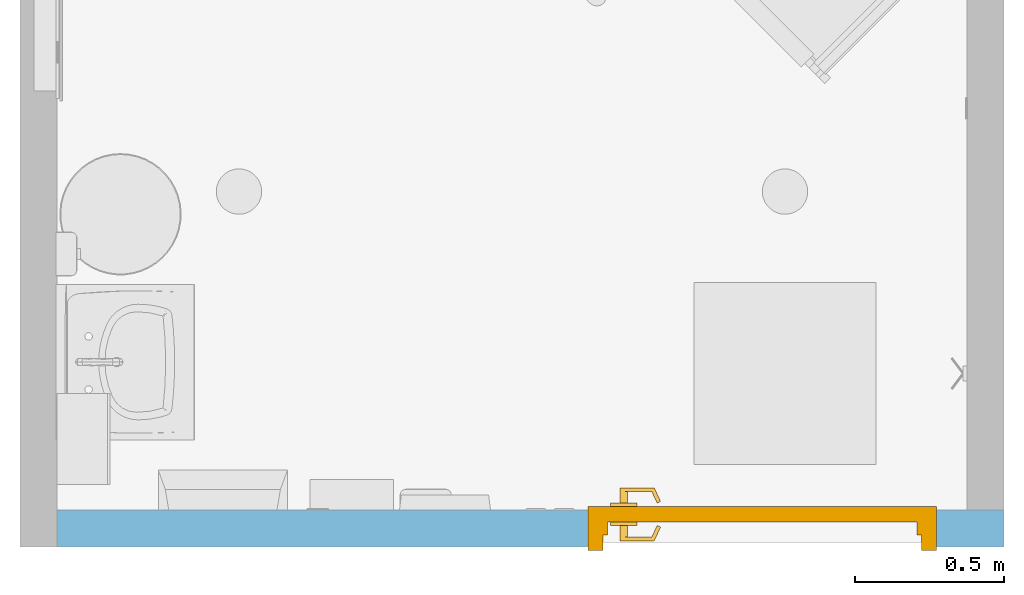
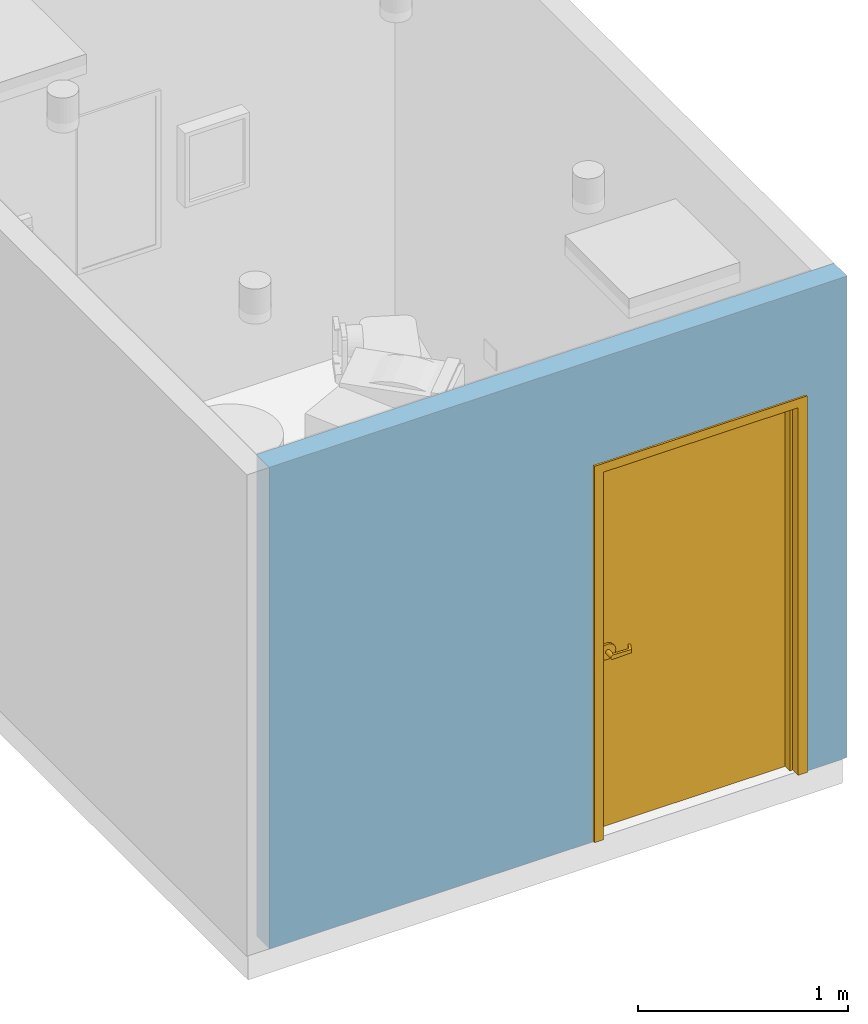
# One storey, part 2 of 12: 1 door, 1 opening, plus 1 element that does not belong to this part.
"""IFC2X3 building model written with IfcOpenShell, lengths in feet."""

from ifc_helpers import new_model, entity, si_unit, converted_unit, derived_unit, direction, frame, frame_2d, origin, place, context, subcontext, project, spatial, rectangle, extrude, faceted_brep, source, transform, mapped, material, material_list, layer, layer_set, layer_usage, type_object, type_shapes, element, fill, save


model = new_model("IFC2X3")

# Units and contexts
model_context = context("Model", 3, precision=0.0001, world=origin(), true_north=direction((6.12303176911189e-17, 1.0)))
body_context = subcontext(model_context, "Body", "Model", "MODEL_VIEW")
ifc_project = project(units=[converted_unit("LENGTHUNIT", "FOOT", entity("IfcRatioMeasure", 0.3048), si_unit("LENGTHUNIT", "METRE"), dimensions=[1, 0, 0, 0, 0, 0, 0]), converted_unit("AREAUNIT", "SQUARE FOOT", entity("IfcRatioMeasure", 0.09290304), si_unit("AREAUNIT", "SQUARE_METRE"), dimensions=[2, 0, 0, 0, 0, 0, 0]), converted_unit("VOLUMEUNIT", "CUBIC FOOT", entity("IfcRatioMeasure", 0.028316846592), si_unit("VOLUMEUNIT", "CUBIC_METRE"), dimensions=[3, 0, 0, 0, 0, 0, 0]), converted_unit("PLANEANGLEUNIT", "DEGREE", entity("IfcRatioMeasure", 0.0174532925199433), si_unit("PLANEANGLEUNIT", "RADIAN"), dimensions=[0, 0, 0, 0, 0, 0, 0]), si_unit("MASSUNIT", "GRAM", prefix="KILO"), derived_unit("MASSDENSITYUNIT", [(si_unit("MASSUNIT", "GRAM", prefix="KILO"), 1), (si_unit("LENGTHUNIT", "METRE"), -3)]), si_unit("TIMEUNIT", "SECOND"), si_unit("FREQUENCYUNIT", "HERTZ"), si_unit("THERMODYNAMICTEMPERATUREUNIT", "DEGREE_CELSIUS"), derived_unit("THERMALTRANSMITTANCEUNIT", [(si_unit("MASSUNIT", "GRAM", prefix="KILO"), 1), (si_unit("THERMODYNAMICTEMPERATUREUNIT", "KELVIN"), -1), (si_unit("TIMEUNIT", "SECOND"), -3)]), derived_unit("VOLUMETRICFLOWRATEUNIT", [(si_unit("LENGTHUNIT", "METRE"), 3), (si_unit("TIMEUNIT", "SECOND"), -1)]), si_unit("ELECTRICCURRENTUNIT", "AMPERE"), si_unit("ELECTRICVOLTAGEUNIT", "VOLT"), si_unit("POWERUNIT", "WATT"), si_unit("FORCEUNIT", "NEWTON"), si_unit("ILLUMINANCEUNIT", "LUX"), si_unit("LUMINOUSFLUXUNIT", "LUMEN"), si_unit("LUMINOUSINTENSITYUNIT", "CANDELA"), derived_unit("USERDEFINED", [(si_unit("MASSUNIT", "GRAM", prefix="KILO"), -1), (si_unit("LENGTHUNIT", "METRE"), -2), (si_unit("TIMEUNIT", "SECOND"), 3), (si_unit("LUMINOUSFLUXUNIT", "LUMEN"), 1)]), derived_unit("LINEARVELOCITYUNIT", [(si_unit("LENGTHUNIT", "METRE"), 1), (si_unit("TIMEUNIT", "SECOND"), -1)]), si_unit("PRESSUREUNIT", "PASCAL"), derived_unit("USERDEFINED", [(si_unit("LENGTHUNIT", "METRE"), -2), (si_unit("MASSUNIT", "GRAM", prefix="KILO"), 1), (si_unit("TIMEUNIT", "SECOND"), -2)])], contexts=[model_context])

# Site, building, storey
site_placement = place(None, origin())
site = spatial("IfcSite", under=ifc_project, at=site_placement, Name="Default", CompositionType="ELEMENT")
building_placement = place(site_placement, origin())
building = spatial("IfcBuilding", under=site, at=building_placement, Name="EYE CLINIC:  OPTHALMOLOGY AND OPTOMETRY SERVICES (Ch. 233)", CompositionType="ELEMENT")
storey_placement = place(building_placement, origin())
storey = spatial("IfcBuildingStorey", under=building, at=storey_placement, Name="DATUM", CompositionType="ELEMENT", Elevation=0.0)

# Wall, opening, door
ifc_material_1 = material(Name="Default Wall")
ifc_layer = layer(ifc_material_1, 0.40625)
ifc_layer_set = layer_set([ifc_layer], Name="Basic Wall:Interior - 4 7/8\"")
ifc_layer_usage = layer_usage(ifc_layer_set, "AXIS2", "NEGATIVE", 0.203125)
wall_type = type_object("IfcWallType", Name="Basic Wall:Interior - 4 7/8\"", PredefinedType="STANDARD", material=ifc_layer_set)
wall_placement = place(storey_placement, frame((164.046019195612, 21.6045006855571, 0.0), z_axis=(0.0, 0.0, 1.0), x_axis=(-1.0, 0.0, 0.0)))
wall = element("IfcWallStandardCase", 1, at=wall_placement, inside=storey, type_object=wall_type, material=ifc_layer_usage, Name="Basic Wall:Interior - 4 7/8\"", ObjectType="Basic Wall:Interior - 4 7/8\"", context=body_context, shape_type="SweptSolid", body=[
    extrude(rectangle(XDim=10.40625, YDim=0.40625, at=frame_2d((5.203125, 1.12410081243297e-15), x_axis=(-1.0, 0.0))), origin(), (0.0, 0.0, 1.0), 9.16666666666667),
])
opening_placement = place(wall_placement, frame((4.57291666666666, 0.203124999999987, 0.0)))
opening = element("IfcOpeningElement", 2, at=opening_placement, cuts=wall, Name="Single - Flush:42\" x 84\":1", ObjectType="Opening", context=body_context, shape_type="SweptSolid", body=[
    extrude(rectangle(XDim=3.83333333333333, YDim=7.16666666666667, at=frame_2d((3.58333333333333, 1.91666666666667), x_axis=(0.0, 1.0))), frame((0.0, 0.0, 0.0), z_axis=(0.0, -1.0, 0.0), x_axis=(0.0, 0.0, 1.0)), (0.0, 0.0, 1.0), 0.40625),
])
ifc_material_2 = material(Name="Door - Hardware")
ifc_material_3 = material(Name="Door - Wood Panel")
ifc_material_4 = material(Name="Door - H.M. Frame")
ifc_material_list_1 = material_list([ifc_material_2, ifc_material_3, ifc_material_4])
ifc_material_list_2 = material_list([ifc_material_2, ifc_material_3, ifc_material_4])
door_style = type_object("IfcDoorStyle", Name="42\" x 84\"", ConstructionType="NOTDEFINED", OperationType="NOTDEFINED", ParameterTakesPrecedence=False, Sizeable=False, material=ifc_material_list_2)
shared_shape = source(origin(), body_context, "Body", "Brep", [
    faceted_brep([(0.761840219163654, 0.236368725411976, 3.3541666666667), (0.761840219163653, 0.236368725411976, 3.31250000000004), (0.709012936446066, 0.123080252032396, 3.30208333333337), (0.702622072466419, 0.109375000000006, 3.30208333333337), (0.702622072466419, 0.109375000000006, 3.36458333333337), (0.709012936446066, 0.123080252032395, 3.36458333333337), (0.799603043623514, 0.218759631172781, 3.3541666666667), (0.746775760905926, 0.1054711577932, 3.36458333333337), (0.729166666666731, 0.0677083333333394, 3.36458333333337), (0.72916666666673, 0.0677083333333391, 3.30208333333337), (0.746775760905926, 0.1054711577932, 3.30208333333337), (0.799603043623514, 0.218759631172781, 3.31250000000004), (0.72916666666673, 0.109375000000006, 3.30208333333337), (0.729166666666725, 0.109375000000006, 3.36458333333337), (0.397137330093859, 0.0677083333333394, 3.29168707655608), (0.397137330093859, 0.0677083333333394, 3.37497959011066), (0.38693671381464, 0.0677083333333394, 3.37403912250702), (0.377273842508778, 0.0677083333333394, 3.37063824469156), (0.368732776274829, 0.0677083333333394, 3.36498251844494), (0.361829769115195, 0.0677083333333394, 3.35741379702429), (0.356982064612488, 0.0677083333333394, 3.34838956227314), (0.354482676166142, 0.0677083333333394, 3.33845527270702), (0.354482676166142, 0.0677083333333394, 3.32821139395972), (0.356982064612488, 0.0677083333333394, 3.31827710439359), (0.361829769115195, 0.0677083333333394, 3.30925286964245), (0.368732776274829, 0.0677083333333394, 3.3016841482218), (0.377273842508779, 0.0677083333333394, 3.29602842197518), (0.38693671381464, 0.0677083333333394, 3.29262754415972), (0.397137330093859, 0.109375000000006, 3.29168707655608), (0.407663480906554, 0.109375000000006, 3.29338137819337), (0.417415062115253, 0.109375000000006, 3.29769150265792), (0.425753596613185, 0.109375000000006, 3.30433524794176), (0.432133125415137, 0.109375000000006, 3.31287762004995), (0.436135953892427, 0.109375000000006, 3.32275931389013), (0.437500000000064, 0.109375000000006, 3.33333333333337), (0.436135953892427, 0.109375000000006, 3.34390735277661), (0.432133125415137, 0.109375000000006, 3.35378904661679), (0.425753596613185, 0.109375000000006, 3.36233141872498), (0.417415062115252, 0.109375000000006, 3.36897516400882), (0.407663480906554, 0.109375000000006, 3.37328528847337), (0.397137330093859, 0.109375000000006, 3.37497959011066), (0.387651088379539, 0.109375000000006, 3.29247795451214), (0.378594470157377, 0.109375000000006, 3.2954000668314), (0.363605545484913, 0.109375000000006, 3.30692347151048), (0.370437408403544, 0.109375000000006, 3.30030065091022), (0.358454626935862, 0.109375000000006, 3.31492291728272), (0.355252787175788, 0.109375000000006, 3.32388185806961), (0.35416666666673, 0.109375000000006, 3.33333333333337), (0.355252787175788, 0.109375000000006, 3.34278480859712), (0.358454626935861, 0.109375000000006, 3.35174374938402), (0.370437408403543, 0.109375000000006, 3.36636601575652), (0.363605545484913, 0.109375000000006, 3.35974319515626), (0.378594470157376, 0.109375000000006, 3.37126659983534), (0.387651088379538, 0.109375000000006, 3.3741887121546), (0.35416666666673, 0.234375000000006, 3.33333333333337), (0.355586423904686, 0.234375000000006, 3.34411746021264), (0.359748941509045, 0.234375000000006, 3.3541666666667), (0.375000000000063, 0.234375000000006, 3.36941772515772), (0.366370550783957, 0.234375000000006, 3.36279611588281), (0.385049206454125, 0.234375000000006, 3.37358024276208), (0.395833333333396, 0.234375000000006, 3.37500000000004), (0.406617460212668, 0.234375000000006, 3.37358024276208), (0.41666666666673, 0.234375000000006, 3.36941772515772), (0.431917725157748, 0.234375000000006, 3.3541666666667), (0.425296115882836, 0.234375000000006, 3.36279611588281), (0.436080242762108, 0.234375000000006, 3.34411746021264), (0.437500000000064, 0.234375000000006, 3.33333333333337), (0.436080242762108, 0.234375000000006, 3.3225492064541), (0.431917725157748, 0.234375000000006, 3.31250000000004), (0.41666666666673, 0.234375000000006, 3.29724894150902), (0.425296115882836, 0.234375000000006, 3.30387055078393), (0.406617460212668, 0.234375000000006, 3.29308642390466), (0.395833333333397, 0.234375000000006, 3.2916666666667), (0.385049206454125, 0.234375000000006, 3.29308642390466), (0.375000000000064, 0.234375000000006, 3.29724894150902), (0.359748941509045, 0.234375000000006, 3.31250000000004), (0.366370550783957, 0.234375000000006, 3.30387055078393), (0.355586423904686, 0.234375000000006, 3.3225492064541), (0.468750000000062, 0.234375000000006, 3.4596287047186), (0.498953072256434, 0.234375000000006, 3.43645307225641), (0.433577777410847, 0.234375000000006, 3.47419751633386), (0.395833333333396, 0.234375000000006, 3.4791666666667), (0.358088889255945, 0.234375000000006, 3.47419751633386), (0.322916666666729, 0.234375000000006, 3.4596287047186), (0.292713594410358, 0.234375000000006, 3.43645307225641), (0.269537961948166, 0.234375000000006, 3.40625000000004), (0.254969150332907, 0.234375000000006, 3.37107777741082), (0.250000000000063, 0.234375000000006, 3.33333333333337), (0.254969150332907, 0.234375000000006, 3.29558888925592), (0.269537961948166, 0.234375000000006, 3.2604166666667), (0.292713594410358, 0.234375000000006, 3.23021359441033), (0.32291666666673, 0.234375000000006, 3.20703796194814), (0.358088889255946, 0.234375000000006, 3.19246915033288), (0.395833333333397, 0.234375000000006, 3.18750000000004), (0.433577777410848, 0.234375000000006, 3.19246915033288), (0.468750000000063, 0.234375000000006, 3.20703796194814), (0.498953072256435, 0.234375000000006, 3.23021359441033), (0.522128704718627, 0.234375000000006, 3.2604166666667), (0.536697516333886, 0.234375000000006, 3.29558888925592), (0.54166666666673, 0.234375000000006, 3.33333333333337), (0.536697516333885, 0.234375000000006, 3.37107777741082), (0.522128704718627, 0.234375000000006, 3.40625000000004), (0.433577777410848, 0.276041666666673, 3.19246915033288), (0.395833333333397, 0.276041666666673, 3.18750000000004), (0.358088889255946, 0.276041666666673, 3.19246915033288), (0.32291666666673, 0.276041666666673, 3.20703796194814), (0.292713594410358, 0.276041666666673, 3.23021359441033), (0.269537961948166, 0.276041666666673, 3.2604166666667), (0.254969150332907, 0.276041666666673, 3.29558888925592), (0.250000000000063, 0.276041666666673, 3.33333333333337), (0.254969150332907, 0.276041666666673, 3.37107777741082), (0.269537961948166, 0.276041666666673, 3.40625000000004), (0.292713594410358, 0.276041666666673, 3.43645307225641), (0.322916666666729, 0.276041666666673, 3.4596287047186), (0.358088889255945, 0.276041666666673, 3.47419751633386), (0.395833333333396, 0.276041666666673, 3.4791666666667), (0.433577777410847, 0.276041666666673, 3.47419751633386), (0.468750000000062, 0.276041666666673, 3.4596287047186), (0.498953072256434, 0.276041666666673, 3.43645307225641), (0.522128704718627, 0.276041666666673, 3.40625000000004), (0.536697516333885, 0.276041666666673, 3.37107777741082), (0.54166666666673, 0.276041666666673, 3.33333333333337), (0.536697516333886, 0.276041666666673, 3.29558888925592), (0.522128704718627, 0.276041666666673, 3.2604166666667), (0.498953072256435, 0.276041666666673, 3.23021359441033), (0.468750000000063, 0.276041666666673, 3.20703796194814)], [[[0, 1, 2, 3, 4, 5]], [[6, 7, 8, 9, 10, 11]], [[12, 3, 2, 10, 9]], [[11, 10, 2, 1]], [[11, 1, 0, 6]], [[7, 6, 0, 5]], [[13, 8, 7, 5, 4]], [[14, 9, 8, 15, 16, 17, 18, 19, 20, 21, 22, 23, 24, 25, 26, 27]], [[3, 12, 28, 29, 30, 31, 32, 33, 34, 35, 36, 37, 38, 39, 40, 13, 4]], [[28, 12, 9, 14]], [[28, 14, 41]], [[41, 27, 42]], [[43, 44, 25]], [[24, 45, 43]], [[26, 44, 42]], [[45, 23, 46]], [[27, 26, 42]], [[41, 14, 27]], [[45, 24, 23]], [[24, 43, 25]], [[44, 26, 25]], [[46, 23, 22]], [[22, 47, 46]], [[47, 21, 48]], [[48, 20, 49]], [[50, 51, 18]], [[17, 52, 50]], [[19, 51, 49]], [[52, 16, 53]], [[51, 19, 18]], [[49, 20, 19]], [[48, 21, 20]], [[53, 16, 15]], [[16, 52, 17]], [[50, 18, 17]], [[40, 53, 15]], [[22, 21, 47]], [[40, 15, 8, 13]], [[54, 48, 55]], [[55, 49, 56]], [[57, 58, 50]], [[51, 58, 56]], [[59, 57, 52]], [[48, 49, 55]], [[54, 47, 48]], [[57, 50, 52]], [[50, 58, 51]], [[56, 49, 51]], [[59, 52, 53]], [[53, 60, 59]], [[60, 40, 61]], [[61, 39, 62]], [[63, 64, 37]], [[36, 65, 63]], [[38, 64, 62]], [[65, 35, 66]], [[39, 38, 62]], [[61, 40, 39]], [[65, 36, 35]], [[36, 63, 37]], [[64, 38, 37]], [[66, 35, 34]], [[53, 40, 60]], [[66, 33, 67]], [[67, 32, 68]], [[69, 70, 30]], [[31, 70, 68]], [[71, 69, 29]], [[33, 32, 67]], [[66, 34, 33]], [[69, 30, 29]], [[30, 70, 31]], [[68, 32, 31]], [[71, 29, 28]], [[28, 72, 71]], [[72, 41, 73]], [[73, 42, 74]], [[75, 76, 43]], [[45, 77, 75]], [[44, 76, 74]], [[77, 46, 54]], [[42, 44, 74]], [[73, 41, 42]], [[77, 45, 46]], [[45, 75, 43]], [[76, 44, 43]], [[54, 46, 47]], [[28, 41, 72]], [[78, 61, 62]], [[78, 62, 79]], [[78, 80, 61]], [[60, 61, 80]], [[81, 60, 80]], [[60, 81, 59]], [[82, 59, 81]], [[82, 57, 59]], [[57, 82, 83]], [[57, 83, 58]], [[84, 58, 83]], [[58, 84, 56]], [[56, 84, 85]], [[56, 85, 55]], [[55, 85, 86]], [[54, 55, 86]], [[87, 54, 86]], [[77, 54, 87]], [[88, 77, 87]], [[75, 77, 88]], [[89, 75, 88]], [[75, 89, 90]], [[76, 75, 90]], [[90, 91, 76]], [[91, 74, 76]], [[74, 91, 92]], [[74, 92, 73]], [[92, 93, 73]], [[72, 73, 93]], [[93, 94, 72]], [[72, 94, 71]], [[95, 71, 94]], [[71, 95, 69]], [[69, 95, 96]], [[70, 69, 96]], [[97, 70, 96]], [[68, 70, 97]], [[98, 68, 97]], [[68, 98, 67]], [[67, 98, 99]], [[99, 66, 67]], [[99, 100, 66]], [[65, 66, 100]], [[101, 65, 100]], [[64, 101, 79]], [[101, 63, 65]], [[63, 101, 64]], [[64, 79, 62]], [[102, 103, 104, 105, 106, 107, 108, 109, 110, 111, 112, 113, 114, 115, 116, 117, 118, 119, 120, 121, 122, 123, 124, 125]], [[109, 87, 86, 110]], [[110, 86, 85, 111]], [[113, 112, 84, 83]], [[84, 112, 111, 85]], [[114, 113, 83, 82]], [[114, 82, 81, 115]], [[115, 81, 80, 116]], [[116, 80, 78, 117]], [[119, 118, 79, 101]], [[79, 118, 117, 78]], [[120, 119, 101, 100]], [[120, 100, 99, 121]], [[121, 99, 98, 122]], [[122, 98, 97, 123]], [[125, 124, 96, 95]], [[96, 124, 123, 97]], [[102, 125, 95, 94]], [[102, 94, 93, 103]], [[103, 93, 92, 104]], [[104, 92, 91, 105]], [[107, 106, 90, 89]], [[90, 106, 105, 91]], [[108, 107, 89, 88]], [[108, 88, 87, 109]]]),
    faceted_brep([(0.761840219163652, 0.482381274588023, 3.31249999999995), (0.761840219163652, 0.482381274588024, 3.35416666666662), (0.709012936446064, 0.595669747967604, 3.36458333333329), (0.702622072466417, 0.609374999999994, 3.36458333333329), (0.702622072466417, 0.609374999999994, 3.30208333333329), (0.709012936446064, 0.595669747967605, 3.30208333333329), (0.799603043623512, 0.499990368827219, 3.31249999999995), (0.746775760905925, 0.6132788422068, 3.30208333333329), (0.729166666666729, 0.651041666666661, 3.30208333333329), (0.729166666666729, 0.651041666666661, 3.36458333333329), (0.746775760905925, 0.6132788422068, 3.36458333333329), (0.799603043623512, 0.499990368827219, 3.35416666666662), (0.729166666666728, 0.609374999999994, 3.36458333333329), (0.729166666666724, 0.609374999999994, 3.30208333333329), (0.397137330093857, 0.651041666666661, 3.37497959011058), (0.397137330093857, 0.651041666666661, 3.291687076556), (0.386936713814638, 0.651041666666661, 3.29262754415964), (0.377273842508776, 0.651041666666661, 3.2960284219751), (0.368732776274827, 0.651041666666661, 3.30168414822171), (0.361829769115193, 0.651041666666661, 3.30925286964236), (0.356982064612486, 0.651041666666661, 3.31827710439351), (0.35448267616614, 0.651041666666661, 3.32821139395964), (0.35448267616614, 0.651041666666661, 3.33845527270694), (0.356982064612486, 0.651041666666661, 3.34838956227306), (0.361829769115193, 0.651041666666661, 3.35741379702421), (0.368732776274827, 0.651041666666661, 3.36498251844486), (0.377273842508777, 0.651041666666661, 3.37063824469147), (0.386936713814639, 0.651041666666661, 3.37403912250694), (0.397137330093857, 0.609374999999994, 3.37497959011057), (0.407663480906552, 0.609374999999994, 3.37328528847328), (0.417415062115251, 0.609374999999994, 3.36897516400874), (0.425753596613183, 0.609374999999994, 3.3623314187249), (0.432133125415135, 0.609374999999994, 3.35378904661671), (0.436135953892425, 0.609374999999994, 3.34390735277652), (0.437500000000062, 0.609374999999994, 3.33333333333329), (0.436135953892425, 0.609374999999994, 3.32275931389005), (0.432133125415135, 0.609374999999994, 3.31287762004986), (0.425753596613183, 0.609374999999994, 3.30433524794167), (0.417415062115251, 0.609374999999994, 3.29769150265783), (0.407663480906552, 0.609374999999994, 3.29338137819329), (0.397137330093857, 0.609374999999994, 3.291687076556), (0.387651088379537, 0.609374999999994, 3.37418871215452), (0.378594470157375, 0.609374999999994, 3.37126659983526), (0.363605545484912, 0.609374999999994, 3.35974319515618), (0.370437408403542, 0.609374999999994, 3.36636601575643), (0.35845462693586, 0.609374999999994, 3.35174374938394), (0.355252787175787, 0.609374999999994, 3.34278480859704), (0.354166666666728, 0.609374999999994, 3.33333333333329), (0.355252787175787, 0.609374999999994, 3.32388185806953), (0.35845462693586, 0.609374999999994, 3.31492291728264), (0.370437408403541, 0.609374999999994, 3.30030065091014), (0.363605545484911, 0.609374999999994, 3.30692347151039), (0.378594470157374, 0.609374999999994, 3.29540006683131), (0.387651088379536, 0.609374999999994, 3.29247795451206), (0.354166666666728, 0.484374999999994, 3.33333333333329), (0.355586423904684, 0.484374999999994, 3.32254920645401), (0.359748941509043, 0.484374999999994, 3.31249999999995), (0.375000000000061, 0.484374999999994, 3.29724894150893), (0.366370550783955, 0.484374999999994, 3.30387055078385), (0.385049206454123, 0.484374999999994, 3.29308642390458), (0.395833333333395, 0.484374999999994, 3.29166666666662), (0.406617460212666, 0.484374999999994, 3.29308642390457), (0.416666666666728, 0.484374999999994, 3.29724894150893), (0.431917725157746, 0.484374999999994, 3.31249999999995), (0.425296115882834, 0.484374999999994, 3.30387055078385), (0.436080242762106, 0.484374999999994, 3.32254920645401), (0.437500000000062, 0.484374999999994, 3.33333333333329), (0.436080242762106, 0.484374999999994, 3.34411746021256), (0.431917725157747, 0.484374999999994, 3.35416666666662), (0.416666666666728, 0.484374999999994, 3.36941772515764), (0.425296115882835, 0.484374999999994, 3.36279611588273), (0.406617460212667, 0.484374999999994, 3.373580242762), (0.395833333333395, 0.484374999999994, 3.37499999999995), (0.385049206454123, 0.484374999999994, 3.373580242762), (0.375000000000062, 0.484374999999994, 3.36941772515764), (0.359748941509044, 0.484374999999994, 3.35416666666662), (0.366370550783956, 0.484374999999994, 3.36279611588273), (0.355586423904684, 0.484374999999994, 3.34411746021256), (0.468750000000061, 0.484374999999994, 3.20703796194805), (0.498953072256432, 0.484374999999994, 3.23021359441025), (0.433577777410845, 0.484374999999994, 3.1924691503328), (0.395833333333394, 0.484374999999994, 3.18749999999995), (0.358088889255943, 0.484374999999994, 3.1924691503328), (0.322916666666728, 0.484374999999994, 3.20703796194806), (0.292713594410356, 0.484374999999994, 3.23021359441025), (0.269537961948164, 0.484374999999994, 3.26041666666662), (0.254969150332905, 0.484374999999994, 3.29558888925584), (0.250000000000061, 0.484374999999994, 3.33333333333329), (0.254969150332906, 0.484374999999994, 3.37107777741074), (0.269537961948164, 0.484374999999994, 3.40624999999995), (0.292713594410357, 0.484374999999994, 3.43645307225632), (0.322916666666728, 0.484374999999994, 3.45962870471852), (0.358088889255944, 0.484374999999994, 3.47419751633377), (0.395833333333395, 0.484374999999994, 3.47916666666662), (0.433577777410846, 0.484374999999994, 3.47419751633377), (0.468750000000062, 0.484374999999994, 3.45962870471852), (0.498953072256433, 0.484374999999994, 3.43645307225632), (0.522128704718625, 0.484374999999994, 3.40624999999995), (0.536697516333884, 0.484374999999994, 3.37107777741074), (0.541666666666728, 0.484374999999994, 3.33333333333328), (0.536697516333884, 0.484374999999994, 3.29558888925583), (0.522128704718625, 0.484374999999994, 3.26041666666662), (0.433577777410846, 0.442708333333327, 3.47419751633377), (0.395833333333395, 0.442708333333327, 3.47916666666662), (0.358088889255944, 0.442708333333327, 3.47419751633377), (0.322916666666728, 0.442708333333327, 3.45962870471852), (0.292713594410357, 0.442708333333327, 3.43645307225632), (0.269537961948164, 0.442708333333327, 3.40624999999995), (0.254969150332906, 0.442708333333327, 3.37107777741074), (0.250000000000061, 0.442708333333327, 3.33333333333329), (0.254969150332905, 0.442708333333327, 3.29558888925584), (0.269537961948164, 0.442708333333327, 3.26041666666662), (0.292713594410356, 0.442708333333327, 3.23021359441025), (0.322916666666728, 0.442708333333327, 3.20703796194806), (0.358088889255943, 0.442708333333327, 3.1924691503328), (0.395833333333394, 0.442708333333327, 3.18749999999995), (0.433577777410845, 0.442708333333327, 3.1924691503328), (0.468750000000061, 0.442708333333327, 3.20703796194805), (0.498953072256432, 0.442708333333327, 3.23021359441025), (0.522128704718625, 0.442708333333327, 3.26041666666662), (0.536697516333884, 0.442708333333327, 3.29558888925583), (0.541666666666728, 0.442708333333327, 3.33333333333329), (0.536697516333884, 0.442708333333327, 3.37107777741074), (0.522128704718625, 0.442708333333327, 3.40624999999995), (0.498953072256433, 0.442708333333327, 3.43645307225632), (0.468750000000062, 0.442708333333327, 3.45962870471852)], [[[0, 1, 2, 3, 4, 5]], [[6, 7, 8, 9, 10, 11]], [[12, 3, 2, 10, 9]], [[11, 10, 2, 1]], [[11, 1, 0, 6]], [[7, 6, 0, 5]], [[13, 8, 7, 5, 4]], [[14, 9, 8, 15, 16, 17, 18, 19, 20, 21, 22, 23, 24, 25, 26, 27]], [[3, 12, 28, 29, 30, 31, 32, 33, 34, 35, 36, 37, 38, 39, 40, 13, 4]], [[28, 12, 9, 14]], [[28, 14, 41]], [[41, 27, 42]], [[43, 44, 25]], [[24, 45, 43]], [[26, 44, 42]], [[45, 23, 46]], [[27, 26, 42]], [[41, 14, 27]], [[45, 24, 23]], [[24, 43, 25]], [[44, 26, 25]], [[46, 23, 22]], [[22, 47, 46]], [[47, 21, 48]], [[48, 20, 49]], [[50, 51, 18]], [[17, 52, 50]], [[19, 51, 49]], [[52, 16, 53]], [[51, 19, 18]], [[49, 20, 19]], [[48, 21, 20]], [[53, 16, 15]], [[16, 52, 17]], [[50, 18, 17]], [[40, 53, 15]], [[22, 21, 47]], [[40, 15, 8, 13]], [[54, 48, 55]], [[55, 49, 56]], [[57, 58, 50]], [[51, 58, 56]], [[59, 57, 52]], [[48, 49, 55]], [[54, 47, 48]], [[57, 50, 52]], [[50, 58, 51]], [[56, 49, 51]], [[59, 52, 53]], [[53, 60, 59]], [[60, 40, 61]], [[61, 39, 62]], [[63, 64, 37]], [[36, 65, 63]], [[38, 64, 62]], [[65, 35, 66]], [[39, 38, 62]], [[61, 40, 39]], [[65, 36, 35]], [[36, 63, 37]], [[64, 38, 37]], [[66, 35, 34]], [[53, 40, 60]], [[66, 33, 67]], [[67, 32, 68]], [[69, 70, 30]], [[31, 70, 68]], [[71, 69, 29]], [[33, 32, 67]], [[66, 34, 33]], [[69, 30, 29]], [[30, 70, 31]], [[68, 32, 31]], [[71, 29, 28]], [[28, 72, 71]], [[72, 41, 73]], [[73, 42, 74]], [[75, 76, 43]], [[45, 77, 75]], [[44, 76, 74]], [[77, 46, 54]], [[42, 44, 74]], [[73, 41, 42]], [[77, 45, 46]], [[45, 75, 43]], [[76, 44, 43]], [[54, 46, 47]], [[28, 41, 72]], [[78, 61, 62]], [[78, 62, 79]], [[78, 80, 61]], [[60, 61, 80]], [[81, 60, 80]], [[60, 81, 59]], [[82, 59, 81]], [[82, 57, 59]], [[57, 82, 83]], [[57, 83, 58]], [[84, 58, 83]], [[58, 84, 56]], [[56, 84, 85]], [[56, 85, 55]], [[55, 85, 86]], [[54, 55, 86]], [[87, 54, 86]], [[77, 54, 87]], [[88, 77, 87]], [[75, 77, 88]], [[89, 75, 88]], [[75, 89, 90]], [[76, 75, 90]], [[90, 91, 76]], [[91, 74, 76]], [[74, 91, 92]], [[74, 92, 73]], [[92, 93, 73]], [[72, 73, 93]], [[93, 94, 72]], [[72, 94, 71]], [[95, 71, 94]], [[71, 95, 69]], [[69, 95, 96]], [[70, 69, 96]], [[97, 70, 96]], [[68, 70, 97]], [[98, 68, 97]], [[68, 98, 67]], [[67, 98, 99]], [[99, 66, 67]], [[99, 100, 66]], [[65, 66, 100]], [[101, 65, 100]], [[64, 101, 79]], [[101, 63, 65]], [[63, 101, 64]], [[64, 79, 62]], [[102, 103, 104, 105, 106, 107, 108, 109, 110, 111, 112, 113, 114, 115, 116, 117, 118, 119, 120, 121, 122, 123, 124, 125]], [[109, 87, 86, 110]], [[110, 86, 85, 111]], [[113, 112, 84, 83]], [[84, 112, 111, 85]], [[114, 113, 83, 82]], [[114, 82, 81, 115]], [[115, 81, 80, 116]], [[116, 80, 78, 117]], [[119, 118, 79, 101]], [[79, 118, 117, 78]], [[120, 119, 101, 100]], [[120, 100, 99, 121]], [[121, 99, 98, 122]], [[122, 98, 97, 123]], [[125, 124, 96, 95]], [[96, 124, 123, 97]], [[102, 125, 95, 94]], [[102, 94, 93, 103]], [[103, 93, 92, 104]], [[104, 92, 91, 105]], [[107, 106, 90, 89]], [[90, 106, 105, 91]], [[108, 107, 89, 88]], [[108, 88, 87, 109]]]),
    faceted_brep([(3.66666666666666, 0.442708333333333, 7.0), (3.66666666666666, 0.442708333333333, 0.0), (0.166666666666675, 0.442708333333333, 0.0), (0.166666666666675, 0.442708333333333, 7.0), (3.66666666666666, 0.276041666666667, 7.0), (0.166666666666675, 0.276041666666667, 7.0), (0.166666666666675, 0.276041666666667, 0.0), (3.66666666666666, 0.276041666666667, 0.0)], [[[0, 1, 2, 3]], [[4, 5, 6, 7]], [[3, 5, 4, 0]], [[2, 6, 5, 3]], [[1, 7, 6, 2]], [[0, 4, 7, 1]]]),
    faceted_brep([(3.66666666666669, 0.442708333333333, 0.0), (3.83333333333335, 0.442708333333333, 0.0), (3.83333333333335, -0.0364583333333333, 0.0), (3.66666666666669, -0.0364583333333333, 0.0), (3.66666666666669, 0.130208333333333, 0.0), (3.61458333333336, 0.130208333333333, 0.0), (3.61458333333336, 0.276041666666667, 0.0), (3.66666666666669, 0.276041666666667, 0.0), (3.66666666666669, 0.276041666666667, 7.0), (3.66666666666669, 0.442708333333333, 7.0), (3.61458333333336, 0.276041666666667, 6.94791666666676), (0.218749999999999, 0.276041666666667, 6.94791666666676), (0.218749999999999, 0.276041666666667, 0.0), (0.166666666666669, 0.276041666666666, 0.0), (0.166666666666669, 0.276041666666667, 7.0), (3.61458333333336, 0.130208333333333, 6.94791666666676), (3.66666666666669, 0.130208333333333, 7.0), (0.166666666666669, 0.130208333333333, 7.0), (0.166666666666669, 0.130208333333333, 0.0), (0.218749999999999, 0.130208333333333, 0.0), (0.218749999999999, 0.130208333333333, 6.94791666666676), (3.66666666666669, -0.0364583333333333, 7.0), (3.83333333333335, -0.0364583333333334, 7.16666666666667), (0.0, -0.0364583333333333, 7.16666666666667), (0.0, -0.0364583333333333, 0.0), (0.166666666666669, -0.0364583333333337, 0.0), (0.166666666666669, -0.0364583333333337, 7.0), (3.83333333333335, 0.442708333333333, 7.16666666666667), (0.166666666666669, 0.442708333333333, 7.0), (0.166666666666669, 0.442708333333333, 0.0), (0.0, 0.442708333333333, 0.0), (0.0, 0.442708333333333, 7.16666666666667)], [[[0, 1, 2, 3, 4, 5, 6, 7]], [[7, 8, 9, 0]], [[6, 10, 11, 12, 13, 14, 8, 7]], [[5, 15, 10, 6]], [[4, 16, 17, 18, 19, 20, 15, 5]], [[3, 21, 16, 4]], [[2, 22, 23, 24, 25, 26, 21, 3]], [[1, 27, 22, 2]], [[0, 9, 28, 29, 30, 31, 27, 1]], [[29, 28, 14, 13]], [[29, 13, 12, 19, 18, 25, 24, 30]], [[12, 11, 20, 19]], [[17, 26, 25, 18]], [[30, 24, 23, 31]], [[14, 28, 9, 8]], [[15, 20, 11, 10]], [[21, 26, 17, 16]], [[23, 22, 27, 31]]]),
])
type_shapes(door_style, [shared_shape])
door_placement = place(opening_placement, frame((0.0, 0.0, 0.0), z_axis=(0.0, 0.0, 1.0), x_axis=(-1.0, 0.0, 0.0)))
door = element("IfcDoor", 3, at=door_placement, inside=storey, type_object=door_style, material=ifc_material_list_1, Name="Single - Flush:42\" x 84\"", ObjectType="42\" x 84\"", OverallHeight=7.16666666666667, OverallWidth=3.83333333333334, context=body_context, shape_type="MappedRepresentation", body=[
    mapped(shared_shape, transform((0.0, 0.0, 0.0), scale=1.0)),
])
fill(opening, door)

save(model, "model.ifc")
